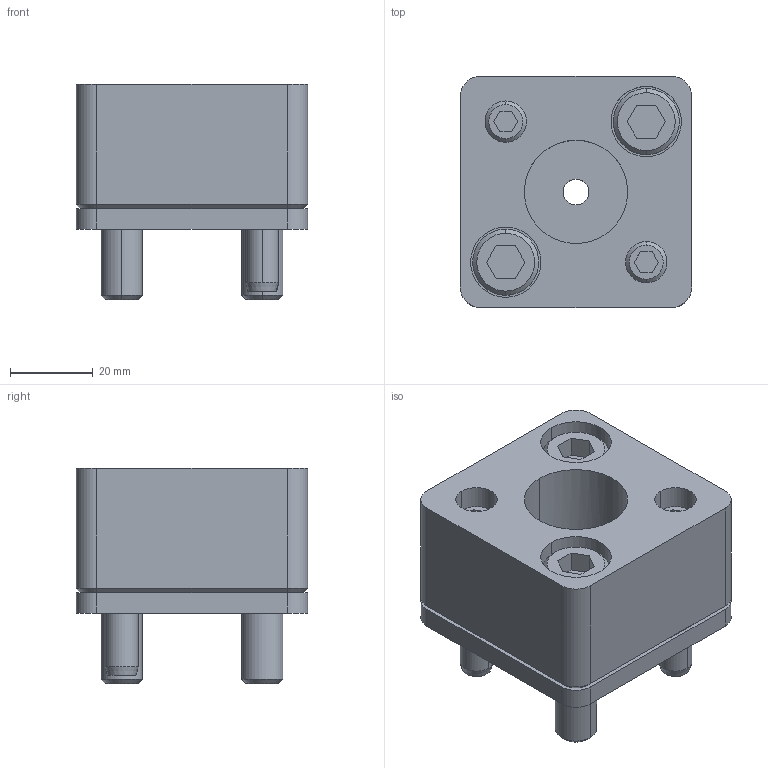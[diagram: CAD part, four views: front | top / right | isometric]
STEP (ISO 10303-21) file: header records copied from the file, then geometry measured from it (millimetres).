
FILE_DESCRIPTION(/* description */ (''),/* implementation_level */ '2;1');
FILE_NAME(/* name */ '3d_hsr-fp25_04205_r00.stp',/* time_stamp */ '2011-01-10T14:14:34+09:00',/* author */ ('MISUMI'),/* organization */ (''),/* preprocessor_version */ 'ST-DEVELOPER v11',/* originating_system */ 'UGS - NX 5.0',/* authorisation */ '');
FILE_SCHEMA (('CONFIG_CONTROL_DESIGN'));
Length unit declared in the file: millimetre
Products named in the file (1): 3d_hsr-fp25_04205_r00
Bounding box: 56 x 56 x 52 mm (x, y, z)
Volume: 91994.7 mm3; surface area: 32424.5 mm2
Topology: 8 solids, 8 shells, 167 faces, 381 edges, 244 vertices
Faces by surface type: plane 72, cylinder 65, cone 30
Entity records: 4863 total; most frequent: DIRECTION 867, CARTESIAN_POINT 850, ORIENTED_EDGE 762, EDGE_CURVE 381, AXIS2_PLACEMENT_3D 329, VERTEX_POINT 244, LINE 209, VECTOR 209
